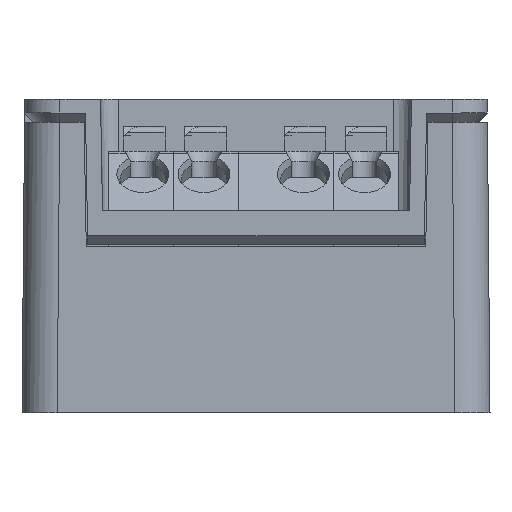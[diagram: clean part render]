
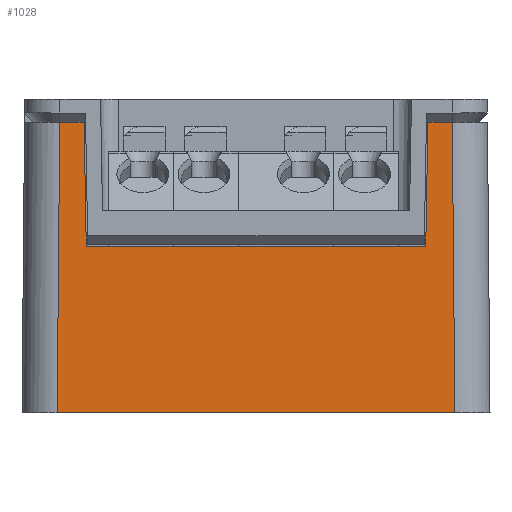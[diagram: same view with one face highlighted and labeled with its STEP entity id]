
A CAD part, left-side view. The second image highlights one B-rep face of the part: STEP entity #1028.
In plain terms, the highlighted planar face has unit normal (-1, 0, 0.009).
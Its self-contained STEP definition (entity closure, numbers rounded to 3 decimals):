
#454=PLANE('',#14233);
#1028=ADVANCED_FACE('',(#1882),#454,.T.);
#1882=FACE_OUTER_BOUND('',#2598,.T.);
#2598=EDGE_LOOP('',(#7279,#7280,#7281,#7282,#7283,#7284,#7285,#7286));
#3542=LINE('',#19877,#5133);
#3551=LINE('',#19905,#5142);
#3553=LINE('',#19918,#5144);
#3590=LINE('',#20005,#5181);
#3591=LINE('',#20007,#5182);
#3592=LINE('',#20008,#5183);
#3593=LINE('',#20009,#5184);
#3594=LINE('',#20010,#5185);
#5133=VECTOR('',#15788,1.);
#5142=VECTOR('',#15815,1.);
#5144=VECTOR('',#15829,1.);
#5181=VECTOR('',#15912,1.);
#5182=VECTOR('',#15915,1.);
#5183=VECTOR('',#15916,1.);
#5184=VECTOR('',#15917,1.);
#5185=VECTOR('',#15918,1.);
#7279=ORIENTED_EDGE('',*,*,#12193,.T.);
#7280=ORIENTED_EDGE('',*,*,#12128,.F.);
#7281=ORIENTED_EDGE('',*,*,#12194,.T.);
#7282=ORIENTED_EDGE('',*,*,#12192,.F.);
#7283=ORIENTED_EDGE('',*,*,#12195,.F.);
#7284=ORIENTED_EDGE('',*,*,#12144,.F.);
#7285=ORIENTED_EDGE('',*,*,#12196,.T.);
#7286=ORIENTED_EDGE('',*,*,#12150,.F.);
#10675=VERTEX_POINT('',#19876);
#10676=VERTEX_POINT('',#19878);
#10685=VERTEX_POINT('',#19904);
#10686=VERTEX_POINT('',#19906);
#10690=VERTEX_POINT('',#19917);
#10691=VERTEX_POINT('',#19919);
#10716=VERTEX_POINT('',#20002);
#10717=VERTEX_POINT('',#20004);
#12128=EDGE_CURVE('',#10675,#10676,#3542,.T.);
#12144=EDGE_CURVE('',#10685,#10686,#3551,.T.);
#12150=EDGE_CURVE('',#10690,#10691,#3553,.T.);
#12192=EDGE_CURVE('',#10717,#10716,#3590,.T.);
#12193=EDGE_CURVE('',#10690,#10676,#3591,.T.);
#12194=EDGE_CURVE('',#10675,#10716,#3592,.T.);
#12195=EDGE_CURVE('',#10686,#10717,#3593,.T.);
#12196=EDGE_CURVE('',#10685,#10691,#3594,.T.);
#14233=AXIS2_PLACEMENT_3D('',#20011,#15919,#15920);
#15788=DIRECTION('',(0.,-1.,0.));
#15815=DIRECTION('',(0.,-1.,0.));
#15829=DIRECTION('',(0.,1.,0.));
#15912=DIRECTION('',(0.,-1.,0.));
#15915=DIRECTION('',(0.009,0.009,1.));
#15916=DIRECTION('',(-0.009,0.017,-1.));
#15917=DIRECTION('',(-0.009,-0.017,-1.));
#15918=DIRECTION('',(-0.009,0.009,-1.));
#15919=DIRECTION('',(-1.,0.,0.009));
#15920=DIRECTION('',(0.009,0.,1.));
#19876=CARTESIAN_POINT('',(-45.326,-2.853,122.87));
#19877=CARTESIAN_POINT('',(-45.326,23.389,122.87));
#19878=CARTESIAN_POINT('',(-45.326,-4.446,122.87));
#19904=CARTESIAN_POINT('',(-45.326,21.223,122.87));
#19905=CARTESIAN_POINT('',(-45.326,23.389,122.87));
#19906=CARTESIAN_POINT('',(-45.326,19.63,122.87));
#19917=CARTESIAN_POINT('',(-45.492,-4.611,103.87));
#19918=CARTESIAN_POINT('',(-45.492,8.389,103.87));
#19919=CARTESIAN_POINT('',(-45.492,21.389,103.87));
#20002=CARTESIAN_POINT('',(-45.397,-2.711,114.77));
#20004=CARTESIAN_POINT('',(-45.397,19.489,114.77));
#20005=CARTESIAN_POINT('',(-45.397,8.389,114.77));
#20007=CARTESIAN_POINT('',(-45.487,-4.606,104.478));
#20008=CARTESIAN_POINT('',(-45.397,-2.711,114.777));
#20009=CARTESIAN_POINT('',(-45.491,19.3,103.944));
#20010=CARTESIAN_POINT('',(-45.492,21.389,103.855));
#20011=CARTESIAN_POINT('',(-45.492,23.389,103.872));
